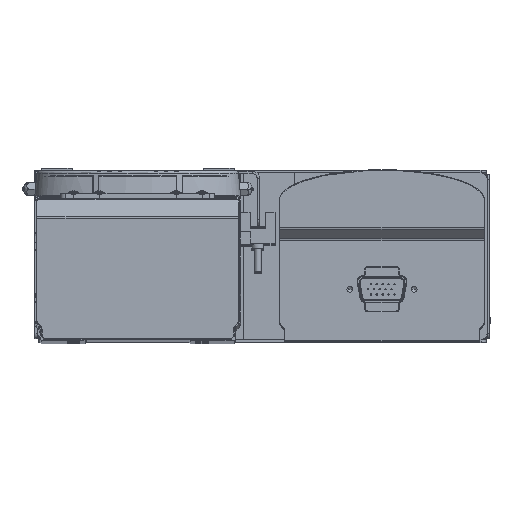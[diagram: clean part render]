
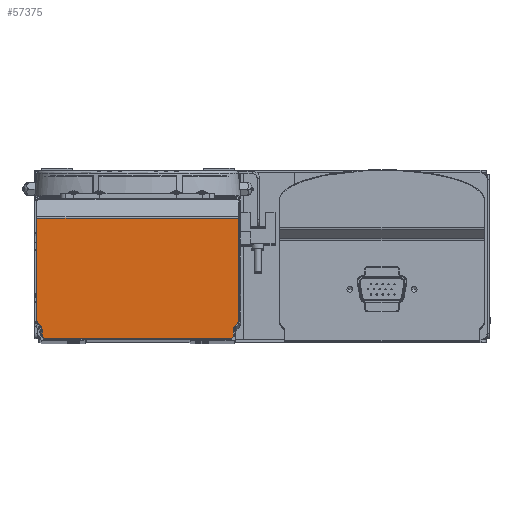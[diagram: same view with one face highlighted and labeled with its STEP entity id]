
A CAD part, top view. The second image highlights one B-rep face of the part: STEP entity #57375.
In plain terms, the highlighted planar face has unit normal (0, 0, 1).
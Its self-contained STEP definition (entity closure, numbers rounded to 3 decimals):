
#39 = VECTOR ( 'NONE', #24472, 1000. ) ;
#264 = DIRECTION ( 'NONE',  ( -1., 0., 0. ) ) ;
#379 = EDGE_CURVE ( 'NONE', #46976, #86684, #27975, .T. ) ;
#3577 = ORIENTED_EDGE ( 'NONE', *, *, #41220, .T. ) ;
#5163 = EDGE_CURVE ( 'NONE', #6860, #46976, #15453, .T. ) ;
#5185 = CARTESIAN_POINT ( 'NONE',  ( 39.2, 9., 1010. ) ) ;
#5509 = FACE_OUTER_BOUND ( 'NONE', #30153, .T. ) ;
#5783 = LINE ( 'NONE', #35771, #21266 ) ;
#6466 = ORIENTED_EDGE ( 'NONE', *, *, #90839, .T. ) ;
#6860 = VERTEX_POINT ( 'NONE', #40949 ) ;
#9811 = DIRECTION ( 'NONE',  ( 0., -1., 0. ) ) ;
#10740 = AXIS2_PLACEMENT_3D ( 'NONE', #21540, #51492, #81126 ) ;
#10803 = VERTEX_POINT ( 'NONE', #48035 ) ;
#10944 = DIRECTION ( 'NONE',  ( 0., -1., 0. ) ) ;
#15198 = AXIS2_PLACEMENT_3D ( 'NONE', #57450, #86965, #20129 ) ;
#15453 = CIRCLE ( 'NONE', #15198, 2.3 ) ;
#16251 = LINE ( 'NONE', #46229, #18645 ) ;
#16839 = CARTESIAN_POINT ( 'NONE',  ( -37.2, -17.828, 1010. ) ) ;
#17756 = CARTESIAN_POINT ( 'NONE',  ( 37.2, 9., 1010. ) ) ;
#18645 = VECTOR ( 'NONE', #75924, 1000. ) ;
#20129 = DIRECTION ( 'NONE',  ( -1., 0., 0. ) ) ;
#20695 = VECTOR ( 'NONE', #9811, 1000. ) ;
#20916 = VERTEX_POINT ( 'NONE', #95812 ) ;
#21266 = VECTOR ( 'NONE', #65604, 1000. ) ;
#21540 = CARTESIAN_POINT ( 'NONE',  ( -37.5, -14.172, 1010. ) ) ;
#23255 = DIRECTION ( 'NONE',  ( 0.707, -0.707, 0. ) ) ;
#23290 = EDGE_CURVE ( 'NONE', #86684, #77362, #86859, .T. ) ;
#23795 = EDGE_CURVE ( 'NONE', #88007, #69687, #37975, .T. ) ;
#24472 = DIRECTION ( 'NONE',  ( 0.707, -0.707, 0. ) ) ;
#24504 = VECTOR ( 'NONE', #23255, 1000. ) ;
#24841 = CARTESIAN_POINT ( 'NONE',  ( 37.288, -20.288, 1010. ) ) ;
#25983 = ORIENTED_EDGE ( 'NONE', *, *, #88197, .T. ) ;
#26796 = VECTOR ( 'NONE', #54756, 1000. ) ;
#27975 = LINE ( 'NONE', #57890, #96129 ) ;
#28151 = DIRECTION ( 'NONE',  ( -1., 0., 0. ) ) ;
#28320 = ORIENTED_EDGE ( 'NONE', *, *, #52093, .T. ) ;
#30153 = EDGE_LOOP ( 'NONE', ( #96537, #28320, #50053, #3577, #90348, #35478, #89699, #53279, #91567, #31849, #25983, #6466, #87722, #78077 ) ) ;
#31849 = ORIENTED_EDGE ( 'NONE', *, *, #62120, .T. ) ;
#32442 = AXIS2_PLACEMENT_3D ( 'NONE', #37624, #67432, #264 ) ;
#33649 = CARTESIAN_POINT ( 'NONE',  ( -39.2, -14.172, 1010. ) ) ;
#33781 = CARTESIAN_POINT ( 'NONE',  ( -37.2, -20.376, 1010. ) ) ;
#34804 = EDGE_CURVE ( 'NONE', #95145, #71903, #16251, .T. ) ;
#35173 = DIRECTION ( 'NONE',  ( 0., 1., 0. ) ) ;
#35478 = ORIENTED_EDGE ( 'NONE', *, *, #87889, .T. ) ;
#35510 = PLANE ( 'NONE',  #39502 ) ;
#35771 = CARTESIAN_POINT ( 'NONE',  ( 0., -21.2, 1010. ) ) ;
#36222 = CARTESIAN_POINT ( 'NONE',  ( -39.5, -17.828, 1010. ) ) ;
#36231 = VECTOR ( 'NONE', #10944, 1000. ) ;
#37624 = CARTESIAN_POINT ( 'NONE',  ( 37.5, -14.172, 1010. ) ) ;
#37975 = LINE ( 'NONE', #90059, #24504 ) ;
#39502 = AXIS2_PLACEMENT_3D ( 'NONE', #65363, #94871, #28151 ) ;
#40949 = CARTESIAN_POINT ( 'NONE',  ( 37.2, -17.828, 1010. ) ) ;
#41220 = EDGE_CURVE ( 'NONE', #71903, #47179, #47143, .T. ) ;
#45501 = AXIS2_PLACEMENT_3D ( 'NONE', #36222, #66058, #95586 ) ;
#46229 = CARTESIAN_POINT ( 'NONE',  ( -39.5, 25.586, 1010. ) ) ;
#46976 = VERTEX_POINT ( 'NONE', #52810 ) ;
#47143 = LINE ( 'NONE', #76837, #20695 ) ;
#47179 = VERTEX_POINT ( 'NONE', #33649 ) ;
#47711 = DIRECTION ( 'NONE',  ( 0., 1., 0. ) ) ;
#48035 = CARTESIAN_POINT ( 'NONE',  ( -37.874, -16.202, 1010. ) ) ;
#48260 = LINE ( 'NONE', #77929, #36231 ) ;
#50042 = VECTOR ( 'NONE', #35173, 1000. ) ;
#50053 = ORIENTED_EDGE ( 'NONE', *, *, #34804, .T. ) ;
#51492 = DIRECTION ( 'NONE',  ( 0., 0., 1. ) ) ;
#52093 = EDGE_CURVE ( 'NONE', #77362, #95145, #72299, .T. ) ;
#52810 = CARTESIAN_POINT ( 'NONE',  ( 37.874, -16.202, 1010. ) ) ;
#53057 = CIRCLE ( 'NONE', #10740, 1.7 ) ;
#53153 = EDGE_CURVE ( 'NONE', #10803, #71206, #87377, .T. ) ;
#53279 = ORIENTED_EDGE ( 'NONE', *, *, #56170, .T. ) ;
#54241 = CARTESIAN_POINT ( 'NONE',  ( 38.702, -15.374, 1010. ) ) ;
#54756 = DIRECTION ( 'NONE',  ( 0.707, 0.707, 0. ) ) ;
#54880 = CARTESIAN_POINT ( 'NONE',  ( 39.2, -14.172, 1010. ) ) ;
#56109 = CARTESIAN_POINT ( 'NONE',  ( -38.702, -15.374, 1010. ) ) ;
#56170 = EDGE_CURVE ( 'NONE', #71206, #88007, #48260, .T. ) ;
#57375 = ADVANCED_FACE ( 'NONE', ( #5509 ), #35510, .F. ) ;
#57450 = CARTESIAN_POINT ( 'NONE',  ( 39.5, -17.828, 1010. ) ) ;
#57890 = CARTESIAN_POINT ( 'NONE',  ( 31.538, -22.538, 1010. ) ) ;
#58241 = VECTOR ( 'NONE', #47711, 1000. ) ;
#60830 = CARTESIAN_POINT ( 'NONE',  ( 36.376, -21.2, 1010. ) ) ;
#61737 = LINE ( 'NONE', #91246, #39 ) ;
#62120 = EDGE_CURVE ( 'NONE', #69687, #92422, #5783, .T. ) ;
#65363 = CARTESIAN_POINT ( 'NONE',  ( 0., 9., 1010. ) ) ;
#65604 = DIRECTION ( 'NONE',  ( 1., 0., 0. ) ) ;
#66058 = DIRECTION ( 'NONE',  ( 0., 0., -1. ) ) ;
#67432 = DIRECTION ( 'NONE',  ( 0., 0., 1. ) ) ;
#69687 = VERTEX_POINT ( 'NONE', #70768 ) ;
#70768 = CARTESIAN_POINT ( 'NONE',  ( -36.376, -21.2, 1010. ) ) ;
#71206 = VERTEX_POINT ( 'NONE', #16839 ) ;
#71346 = VERTEX_POINT ( 'NONE', #56109 ) ;
#71903 = VERTEX_POINT ( 'NONE', #89349 ) ;
#72299 = LINE ( 'NONE', #5185, #50042 ) ;
#75924 = DIRECTION ( 'NONE',  ( -1., 0., 0. ) ) ;
#76837 = CARTESIAN_POINT ( 'NONE',  ( -39.2, 9., 1010. ) ) ;
#77362 = VERTEX_POINT ( 'NONE', #54880 ) ;
#77929 = CARTESIAN_POINT ( 'NONE',  ( -37.2, 9., 1010. ) ) ;
#78077 = ORIENTED_EDGE ( 'NONE', *, *, #379, .T. ) ;
#81126 = DIRECTION ( 'NONE',  ( -1., 0., 0. ) ) ;
#83547 = EDGE_CURVE ( 'NONE', #47179, #71346, #53057, .T. ) ;
#84647 = LINE ( 'NONE', #17756, #58241 ) ;
#86684 = VERTEX_POINT ( 'NONE', #54241 ) ;
#86859 = CIRCLE ( 'NONE', #32442, 1.7 ) ;
#86965 = DIRECTION ( 'NONE',  ( 0., 0., -1. ) ) ;
#87377 = CIRCLE ( 'NONE', #45501, 2.3 ) ;
#87386 = DIRECTION ( 'NONE',  ( 0.707, 0.707, 0. ) ) ;
#87722 = ORIENTED_EDGE ( 'NONE', *, *, #5163, .T. ) ;
#87889 = EDGE_CURVE ( 'NONE', #71346, #10803, #61737, .T. ) ;
#88007 = VERTEX_POINT ( 'NONE', #33781 ) ;
#88197 = EDGE_CURVE ( 'NONE', #92422, #20916, #91619, .T. ) ;
#89349 = CARTESIAN_POINT ( 'NONE',  ( -39.2, 25.586, 1010. ) ) ;
#89699 = ORIENTED_EDGE ( 'NONE', *, *, #53153, .T. ) ;
#90059 = CARTESIAN_POINT ( 'NONE',  ( -36.288, -21.288, 1010. ) ) ;
#90348 = ORIENTED_EDGE ( 'NONE', *, *, #83547, .T. ) ;
#90571 = CARTESIAN_POINT ( 'NONE',  ( 39.2, 25.586, 1010. ) ) ;
#90839 = EDGE_CURVE ( 'NONE', #20916, #6860, #84647, .T. ) ;
#91246 = CARTESIAN_POINT ( 'NONE',  ( -31.538, -22.538, 1010. ) ) ;
#91567 = ORIENTED_EDGE ( 'NONE', *, *, #23795, .T. ) ;
#91619 = LINE ( 'NONE', #24841, #26796 ) ;
#92422 = VERTEX_POINT ( 'NONE', #60830 ) ;
#94871 = DIRECTION ( 'NONE',  ( 0., 0., -1. ) ) ;
#95145 = VERTEX_POINT ( 'NONE', #90571 ) ;
#95586 = DIRECTION ( 'NONE',  ( -1., 0., 0. ) ) ;
#95812 = CARTESIAN_POINT ( 'NONE',  ( 37.2, -20.376, 1010. ) ) ;
#96129 = VECTOR ( 'NONE', #87386, 1000. ) ;
#96537 = ORIENTED_EDGE ( 'NONE', *, *, #23290, .T. ) ;
